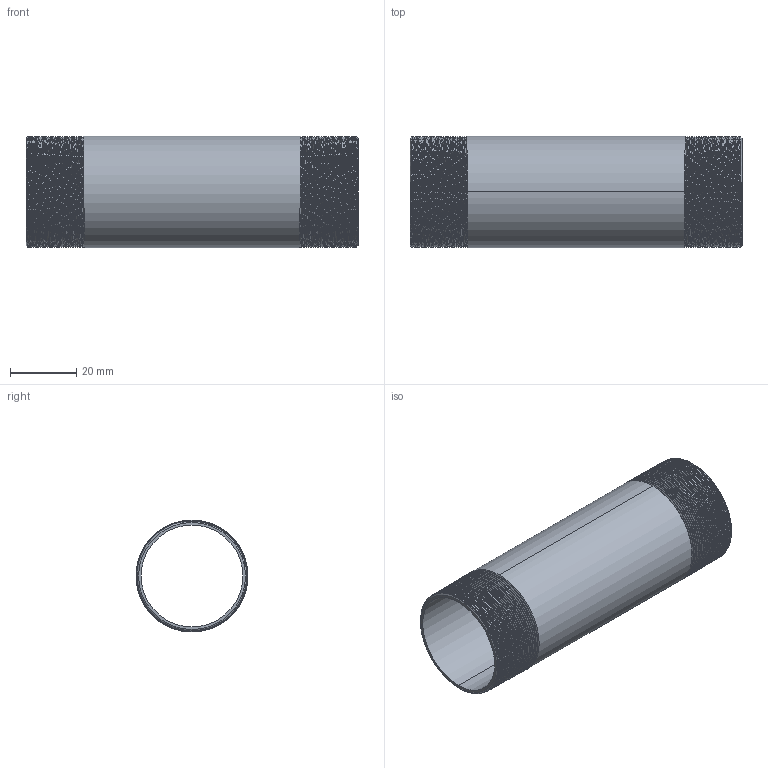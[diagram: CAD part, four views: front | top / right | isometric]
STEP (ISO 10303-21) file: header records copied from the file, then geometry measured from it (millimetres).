
FILE_DESCRIPTION (( 'STEP AP203' ), '1' );
FILE_NAME ('3D_R210_1x100_17185150.STEP', '2024-08-16T10:40:10', ( '' ), ( '' ), 'SwSTEP 2.0', 'SolidWorks 2024', '' );
FILE_SCHEMA (( 'CONFIG_CONTROL_DESIGN' ));
Length unit declared in the file: millimetre
Products named in the file (1): 3D_R210_1x100_17185150
Bounding box: 100 x 33.69 x 33.7 mm (x, y, z)
Volume: 14303.3 mm3; surface area: 22093.1 mm2
Topology: 1 solids, 1 shells, 116 faces, 336 edges, 222 vertices
Faces by surface type: cone 102, bspline 6, cylinder 4, plane 4
Entity records: 18631 total; most frequent: CARTESIAN_POINT 15943, ORIENTED_EDGE 672, DIRECTION 354, EDGE_CURVE 336, VERTEX_POINT 222, B_SPLINE_CURVE_WITH_KNOTS 206, AXIS2_PLACEMENT_3D 121, EDGE_LOOP 118
